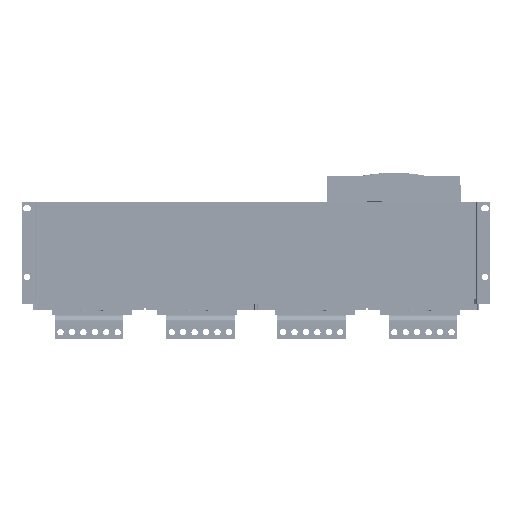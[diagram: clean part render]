
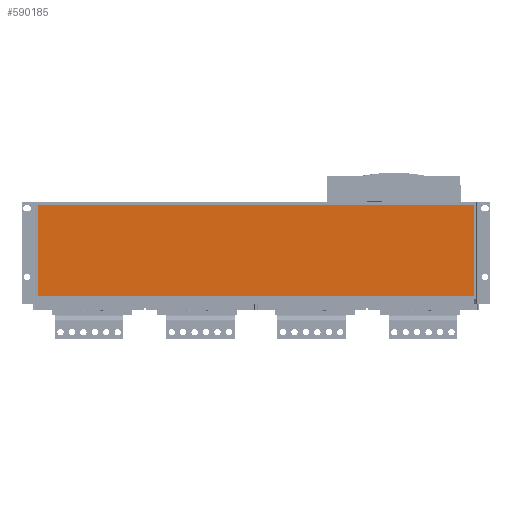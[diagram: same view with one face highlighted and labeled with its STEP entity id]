
A CAD part, front view. The second image highlights one B-rep face of the part: STEP entity #590185.
In plain terms, the highlighted planar face has unit normal (0, -1, 0).
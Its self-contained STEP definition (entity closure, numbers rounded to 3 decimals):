
#4880 = LINE ( 'NONE', #407183, #485907 ) ;
#29199 = CARTESIAN_POINT ( 'NONE',  ( -30.755, 447.531, 505.012 ) ) ;
#29513 = LINE ( 'NONE', #161441, #315269 ) ;
#33473 = ORIENTED_EDGE ( 'NONE', *, *, #280294, .T. ) ;
#34037 = CARTESIAN_POINT ( 'NONE',  ( 919.245, 447.531, 505.012 ) ) ;
#40767 = CARTESIAN_POINT ( 'NONE',  ( -31.755, 447.531, 709.012 ) ) ;
#42527 = CARTESIAN_POINT ( 'NONE',  ( 919.245, 447.531, 709.012 ) ) ;
#54825 = CARTESIAN_POINT ( 'NONE',  ( 919.245, 447.531, 511.012 ) ) ;
#62414 = DIRECTION ( 'NONE',  ( 1., 0., 0. ) ) ;
#64916 = CARTESIAN_POINT ( 'NONE',  ( 920.245, 447.531, 709.012 ) ) ;
#76804 = VERTEX_POINT ( 'NONE', #54825 ) ;
#80705 = VERTEX_POINT ( 'NONE', #235319 ) ;
#81940 = ORIENTED_EDGE ( 'NONE', *, *, #286372, .T. ) ;
#86696 = CARTESIAN_POINT ( 'NONE',  ( 919.245, 447.531, 510.012 ) ) ;
#91097 = ORIENTED_EDGE ( 'NONE', *, *, #118494, .T. ) ;
#93053 = CARTESIAN_POINT ( 'NONE',  ( 444.245, 447.531, 710.012 ) ) ;
#105620 = DIRECTION ( 'NONE',  ( -1., 0., 0. ) ) ;
#110779 = EDGE_CURVE ( 'NONE', #80705, #152610, #445110, .T. ) ;
#113154 = VERTEX_POINT ( 'NONE', #64916 ) ;
#115006 = DIRECTION ( 'NONE',  ( 1., 0., 0. ) ) ;
#115157 = CARTESIAN_POINT ( 'NONE',  ( 919.245, 447.531, 715.012 ) ) ;
#118494 = EDGE_CURVE ( 'NONE', #589899, #458285, #340576, .T. ) ;
#138949 = VECTOR ( 'NONE', #590805, 1000. ) ;
#139628 = ORIENTED_EDGE ( 'NONE', *, *, #516635, .F. ) ;
#148908 = LINE ( 'NONE', #404756, #351985 ) ;
#149249 = VECTOR ( 'NONE', #105620, 1000. ) ;
#152610 = VERTEX_POINT ( 'NONE', #329509 ) ;
#161441 = CARTESIAN_POINT ( 'NONE',  ( 925.245, 447.531, 709.012 ) ) ;
#185429 = DIRECTION ( 'NONE',  ( 1., 0., 0. ) ) ;
#186042 = ORIENTED_EDGE ( 'NONE', *, *, #249194, .T. ) ;
#191630 = VERTEX_POINT ( 'NONE', #623234 ) ;
#197621 = VECTOR ( 'NONE', #617348, 1000. ) ;
#218127 = DIRECTION ( 'NONE',  ( 0., 0., 1. ) ) ;
#218388 = EDGE_CURVE ( 'NONE', #229116, #76804, #455675, .T. ) ;
#218405 = ORIENTED_EDGE ( 'NONE', *, *, #432220, .T. ) ;
#220267 = CARTESIAN_POINT ( 'NONE',  ( -30.755, 447.531, 715.012 ) ) ;
#221285 = ORIENTED_EDGE ( 'NONE', *, *, #452203, .T. ) ;
#229116 = VERTEX_POINT ( 'NONE', #86696 ) ;
#230460 = LINE ( 'NONE', #220267, #598783 ) ;
#235319 = CARTESIAN_POINT ( 'NONE',  ( -30.755, 447.531, 710.012 ) ) ;
#243356 = VECTOR ( 'NONE', #525869, 1000. ) ;
#249194 = EDGE_CURVE ( 'NONE', #76804, #191630, #596869, .T. ) ;
#250439 = CARTESIAN_POINT ( 'NONE',  ( -36.755, 447.531, 709.012 ) ) ;
#274492 = VERTEX_POINT ( 'NONE', #455249 ) ;
#276847 = LINE ( 'NONE', #250439, #149249 ) ;
#280294 = EDGE_CURVE ( 'NONE', #608744, #152610, #526077, .T. ) ;
#286372 = EDGE_CURVE ( 'NONE', #274492, #589899, #148908, .T. ) ;
#300635 = VECTOR ( 'NONE', #549887, 1000. ) ;
#306290 = DIRECTION ( 'NONE',  ( -1., 0., 0. ) ) ;
#306528 = CARTESIAN_POINT ( 'NONE',  ( -30.755, 447.531, 510.012 ) ) ;
#315269 = VECTOR ( 'NONE', #306290, 1000. ) ;
#329509 = CARTESIAN_POINT ( 'NONE',  ( 919.245, 447.531, 710.012 ) ) ;
#332631 = ORIENTED_EDGE ( 'NONE', *, *, #377924, .F. ) ;
#340576 = LINE ( 'NONE', #29199, #197621 ) ;
#341439 = VECTOR ( 'NONE', #62414, 1000. ) ;
#351985 = VECTOR ( 'NONE', #115006, 1000. ) ;
#365975 = VERTEX_POINT ( 'NONE', #563467 ) ;
#368944 = ORIENTED_EDGE ( 'NONE', *, *, #472889, .T. ) ;
#370604 = PLANE ( 'NONE',  #560321 ) ;
#375600 = ORIENTED_EDGE ( 'NONE', *, *, #218388, .T. ) ;
#377924 = EDGE_CURVE ( 'NONE', #229116, #458285, #566434, .T. ) ;
#388475 = ORIENTED_EDGE ( 'NONE', *, *, #603110, .F. ) ;
#403090 = DIRECTION ( 'NONE',  ( 0., 0., -1. ) ) ;
#404756 = CARTESIAN_POINT ( 'NONE',  ( -36.755, 447.531, 511.012 ) ) ;
#405671 = CARTESIAN_POINT ( 'NONE',  ( 920.245, 447.531, 715.012 ) ) ;
#407183 = CARTESIAN_POINT ( 'NONE',  ( -31.755, 447.531, 715.012 ) ) ;
#432220 = EDGE_CURVE ( 'NONE', #80705, #365975, #230460, .T. ) ;
#445110 = LINE ( 'NONE', #93053, #520472 ) ;
#445745 = CARTESIAN_POINT ( 'NONE',  ( -30.755, 447.531, 511.012 ) ) ;
#452203 = EDGE_CURVE ( 'NONE', #365975, #587966, #276847, .T. ) ;
#455249 = CARTESIAN_POINT ( 'NONE',  ( -31.755, 447.531, 511.012 ) ) ;
#455675 = LINE ( 'NONE', #34037, #583629 ) ;
#458285 = VERTEX_POINT ( 'NONE', #306528 ) ;
#466730 = ORIENTED_EDGE ( 'NONE', *, *, #110779, .F. ) ;
#472889 = EDGE_CURVE ( 'NONE', #113154, #608744, #29513, .T. ) ;
#475545 = CARTESIAN_POINT ( 'NONE',  ( 444.245, 447.531, 510.012 ) ) ;
#485907 = VECTOR ( 'NONE', #218127, 1000. ) ;
#490999 = CARTESIAN_POINT ( 'NONE',  ( 925.245, 447.531, 511.012 ) ) ;
#495360 = EDGE_LOOP ( 'NONE', ( #466730, #218405, #221285, #388475, #81940, #91097, #332631, #375600, #186042, #139628, #368944, #33473 ) ) ;
#511326 = DIRECTION ( 'NONE',  ( 0., 1., 0. ) ) ;
#515164 = DIRECTION ( 'NONE',  ( 0., 0., 1. ) ) ;
#515491 = CARTESIAN_POINT ( 'NONE',  ( 444.245, 447.531, 715.012 ) ) ;
#516387 = FACE_OUTER_BOUND ( 'NONE', #495360, .T. ) ;
#516635 = EDGE_CURVE ( 'NONE', #113154, #191630, #582613, .T. ) ;
#520472 = VECTOR ( 'NONE', #185429, 1000. ) ;
#525869 = DIRECTION ( 'NONE',  ( -1., 0., 0. ) ) ;
#526077 = LINE ( 'NONE', #115157, #300635 ) ;
#549887 = DIRECTION ( 'NONE',  ( 0., 0., 1. ) ) ;
#560321 = AXIS2_PLACEMENT_3D ( 'NONE', #515491, #511326, #610090 ) ;
#563467 = CARTESIAN_POINT ( 'NONE',  ( -30.755, 447.531, 709.012 ) ) ;
#566434 = LINE ( 'NONE', #475545, #243356 ) ;
#582613 = LINE ( 'NONE', #405671, #138949 ) ;
#583629 = VECTOR ( 'NONE', #515164, 1000. ) ;
#587966 = VERTEX_POINT ( 'NONE', #40767 ) ;
#589899 = VERTEX_POINT ( 'NONE', #445745 ) ;
#590185 = ADVANCED_FACE ( 'NONE', ( #516387 ), #370604, .F. ) ;
#590805 = DIRECTION ( 'NONE',  ( 0., 0., -1. ) ) ;
#596869 = LINE ( 'NONE', #490999, #341439 ) ;
#598783 = VECTOR ( 'NONE', #403090, 1000. ) ;
#603110 = EDGE_CURVE ( 'NONE', #274492, #587966, #4880, .T. ) ;
#608744 = VERTEX_POINT ( 'NONE', #42527 ) ;
#610090 = DIRECTION ( 'NONE',  ( 1., 0., 0. ) ) ;
#617348 = DIRECTION ( 'NONE',  ( 0., 0., -1. ) ) ;
#623234 = CARTESIAN_POINT ( 'NONE',  ( 920.245, 447.531, 511.012 ) ) ;
